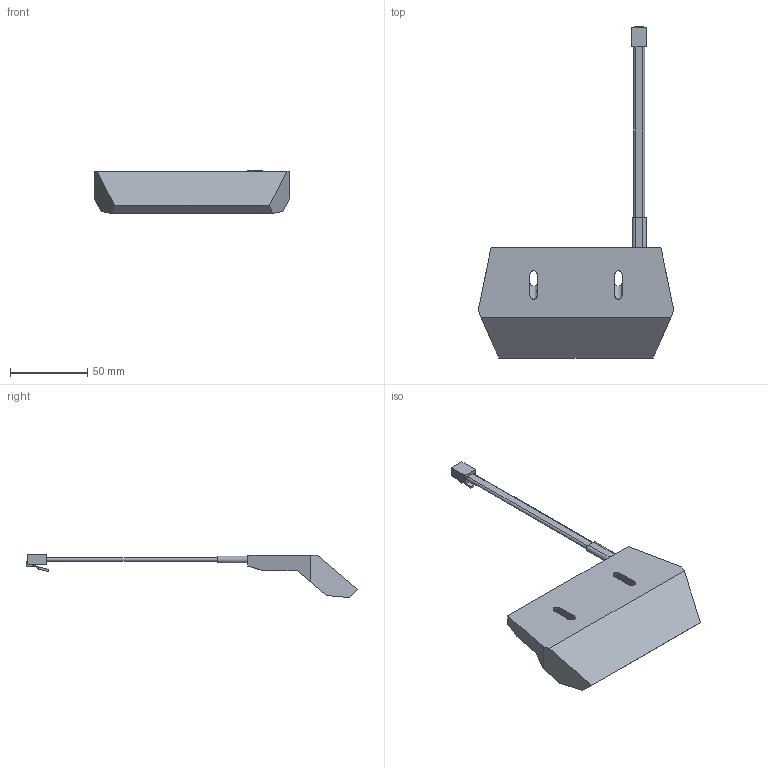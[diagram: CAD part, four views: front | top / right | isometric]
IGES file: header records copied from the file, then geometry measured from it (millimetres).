
Start section: Data from Parasolid IGES Translator 20.0.26, Copyright(c) 2006 Siemens P LM Software. All Rights Reserved.
Global section: file name: 9309938.igs; native system: By Siemens PLM Incorporated; preprocessor: XPlus GENERIC/IGES 20.0.26; author: Noname; organization: Noname; date: 20211203.151704; units: millimetre
Bounding box: 126.98 x 215.43 x 28.02 mm (x, y, z)
Surface area: 24744.1 mm2 (no closed solid volume)
Topology: 0 solids, 0 shells, 53 faces, 292 edges, 292 vertices
Faces by surface type: extrusion 43, revolution 10
